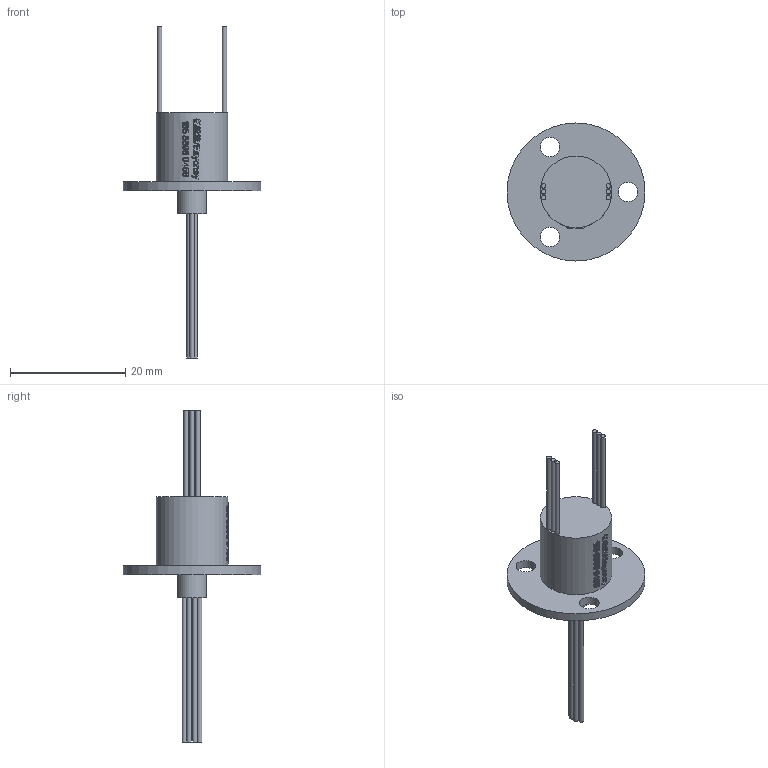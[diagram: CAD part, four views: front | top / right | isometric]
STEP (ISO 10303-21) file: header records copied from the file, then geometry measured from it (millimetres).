
FILE_DESCRIPTION(/* description */ (''),/* implementation_level */ '2;1');
FILE_NAME(/* name */ 'YM012-06.stp',/* time_stamp */ '2025-09-05T08:26:04+08:00',/* author */ (''),/* organization */ (''),/* preprocessor_version */ 'ST-DEVELOPER v16.7',/* originating_system */ 'SIEMENS PLM Software NX 12.0',/* authorisation */ '');
FILE_SCHEMA (('AUTOMOTIVE_DESIGN { 1 0 10303 214 3 1 1 1 }'));
Length unit declared in the file: millimetre
Products named in the file (1): Admi30D0F06639z5
Bounding box: 23.9 x 23.9 x 57.5 mm (x, y, z)
Volume: 2281.8 mm3; surface area: 2163.7 mm2
Topology: 1 solids, 1 shells, 715 faces, 1964 edges, 1310 vertices
Faces by surface type: extrusion 450, plane 202, cylinder 34, bspline 29
Full cylindrical faces by diameter (mm): 0.8 x12, 3.4 x3, 5 x1, 12.4 x1, 23.9 x1
Entity records: 30415 total; most frequent: CARTESIAN_POINT 15486, ORIENTED_EDGE 3888, B_SPLINE_CURVE_WITH_KNOTS 2116, EDGE_CURVE 1944, DIRECTION 1368, VERTEX_POINT 1308, EDGE_LOOP 798, ADVANCED_FACE 715
